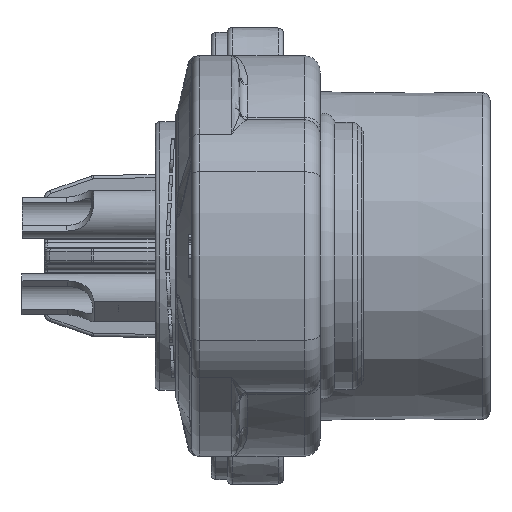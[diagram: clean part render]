
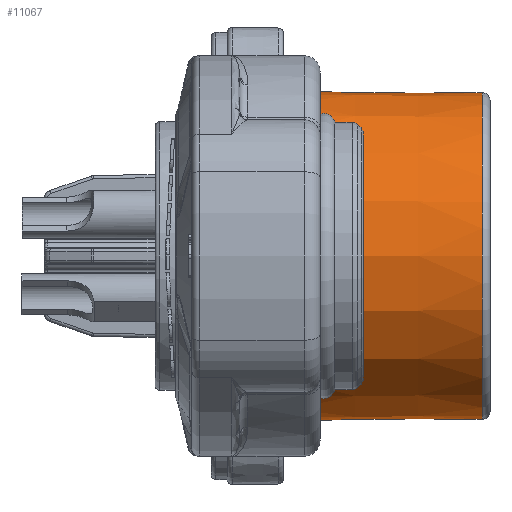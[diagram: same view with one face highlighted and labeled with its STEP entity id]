
A CAD part, front view. The second image highlights one B-rep face of the part: STEP entity #11067.
In plain terms, the highlighted conical face has half-angle 0.5 degrees and reference radius 10.2 mm.
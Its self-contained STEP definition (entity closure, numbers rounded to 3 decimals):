
#67 = VERTEX_POINT ( 'NONE', #5010 ) ;
#452 = AXIS2_PLACEMENT_3D ( 'NONE', #27583, #33834, #7020 ) ;
#990 = DIRECTION ( 'NONE',  ( 0., 0., 1. ) ) ;
#3404 = AXIS2_PLACEMENT_3D ( 'NONE', #18226, #11741, #22222 ) ;
#5010 = CARTESIAN_POINT ( 'NONE',  ( -12.404, 7.367, 7.21 ) ) ;
#5041 = FACE_OUTER_BOUND ( 'NONE', #41670, .T. ) ;
#5211 = DIRECTION ( 'NONE',  ( 1., 0., 0. ) ) ;
#5289 = CARTESIAN_POINT ( 'NONE',  ( -12.404, 7.367, -7.21 ) ) ;
#7020 = DIRECTION ( 'NONE',  ( 0., 0., -1. ) ) ;
#10020 = CARTESIAN_POINT ( 'NONE',  ( -6., 7.34, 7.158 ) ) ;
#10340 = CARTESIAN_POINT ( 'NONE',  ( -2.631, 7.326, -7.13 ) ) ;
#10410 = EDGE_CURVE ( 'NONE', #34735, #67, #32325, .T. ) ;
#11067 = ADVANCED_FACE ( 'NONE', ( #5041 ), #31843, .T. ) ;
#11741 = DIRECTION ( 'NONE',  ( -1., 0., 0. ) ) ;
#13267 = CIRCLE ( 'NONE', #18983, 10.308 ) ;
#13405 = CARTESIAN_POINT ( 'NONE',  ( -0.496, 7.317, -7.113 ) ) ;
#13687 = CARTESIAN_POINT ( 'NONE',  ( -0.496, 7.317, -7.113 ) ) ;
#14156 = CARTESIAN_POINT ( 'NONE',  ( -8.735, 7.352, -7.18 ) ) ;
#14463 = ORIENTED_EDGE ( 'NONE', *, *, #17722, .T. ) ;
#16846 = CIRCLE ( 'NONE', #452, 10.204 ) ;
#17722 = EDGE_CURVE ( 'NONE', #23725, #28921, #21747, .T. ) ;
#18165 = CARTESIAN_POINT ( 'NONE',  ( -12.404, 0., 0. ) ) ;
#18226 = CARTESIAN_POINT ( 'NONE',  ( 0., 0., 0. ) ) ;
#18983 = AXIS2_PLACEMENT_3D ( 'NONE', #18165, #5211, #990 ) ;
#19875 = CARTESIAN_POINT ( 'NONE',  ( -2.33, 7.324, 7.128 ) ) ;
#20313 = CARTESIAN_POINT ( 'NONE',  ( -8.135, 7.349, 7.175 ) ) ;
#21081 = CARTESIAN_POINT ( 'NONE',  ( -12.404, 7.367, -7.21 ) ) ;
#21747 = B_SPLINE_CURVE_WITH_KNOTS ( 'NONE', 3,
 ( #21081, #40952, #14156, #41182, #24870, #10340, #13687 ),
 .UNSPECIFIED., .F., .F.,
 ( 4, 3, 4 ),
 ( 0., 0.006, 0.012 ),
 .UNSPECIFIED. ) ;
#22222 = DIRECTION ( 'NONE',  ( 0., 0., -1. ) ) ;
#22786 = ORIENTED_EDGE ( 'NONE', *, *, #10410, .T. ) ;
#23228 = CARTESIAN_POINT ( 'NONE',  ( -10.269, 7.358, 7.193 ) ) ;
#23649 = CARTESIAN_POINT ( 'NONE',  ( -4.165, 7.332, 7.143 ) ) ;
#23725 = VERTEX_POINT ( 'NONE', #5289 ) ;
#24870 = CARTESIAN_POINT ( 'NONE',  ( -4.765, 7.335, -7.148 ) ) ;
#27026 = CARTESIAN_POINT ( 'NONE',  ( -12.404, 7.367, 7.21 ) ) ;
#27573 = CARTESIAN_POINT ( 'NONE',  ( -0.496, 7.317, 7.113 ) ) ;
#27583 = CARTESIAN_POINT ( 'NONE',  ( -0.496, 0., 0. ) ) ;
#28237 = EDGE_CURVE ( 'NONE', #67, #23725, #13267, .T. ) ;
#28332 = EDGE_CURVE ( 'NONE', #28921, #34735, #16846, .T. ) ;
#28921 = VERTEX_POINT ( 'NONE', #13405 ) ;
#31843 = CONICAL_SURFACE ( 'NONE', #3404, 10.2, 0.009 ) ;
#32325 = B_SPLINE_CURVE_WITH_KNOTS ( 'NONE', 3,
 ( #33703, #19875, #23649, #10020, #20313, #23228, #27026 ),
 .UNSPECIFIED., .F., .F.,
 ( 4, 3, 4 ),
 ( 0., 0.006, 0.012 ),
 .UNSPECIFIED. ) ;
#33703 = CARTESIAN_POINT ( 'NONE',  ( -0.496, 7.317, 7.113 ) ) ;
#33834 = DIRECTION ( 'NONE',  ( -1., 0., 0. ) ) ;
#34735 = VERTEX_POINT ( 'NONE', #27573 ) ;
#36618 = ORIENTED_EDGE ( 'NONE', *, *, #28332, .T. ) ;
#40952 = CARTESIAN_POINT ( 'NONE',  ( -10.57, 7.36, -7.195 ) ) ;
#41182 = CARTESIAN_POINT ( 'NONE',  ( -6.9, 7.344, -7.165 ) ) ;
#41670 = EDGE_LOOP ( 'NONE', ( #14463, #36618, #22786, #42842 ) ) ;
#42842 = ORIENTED_EDGE ( 'NONE', *, *, #28237, .T. ) ;
